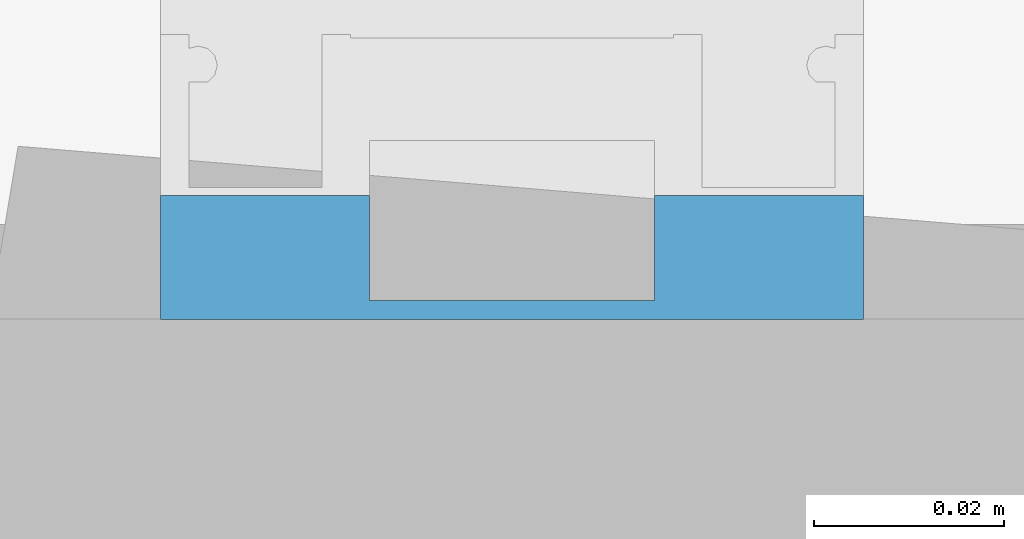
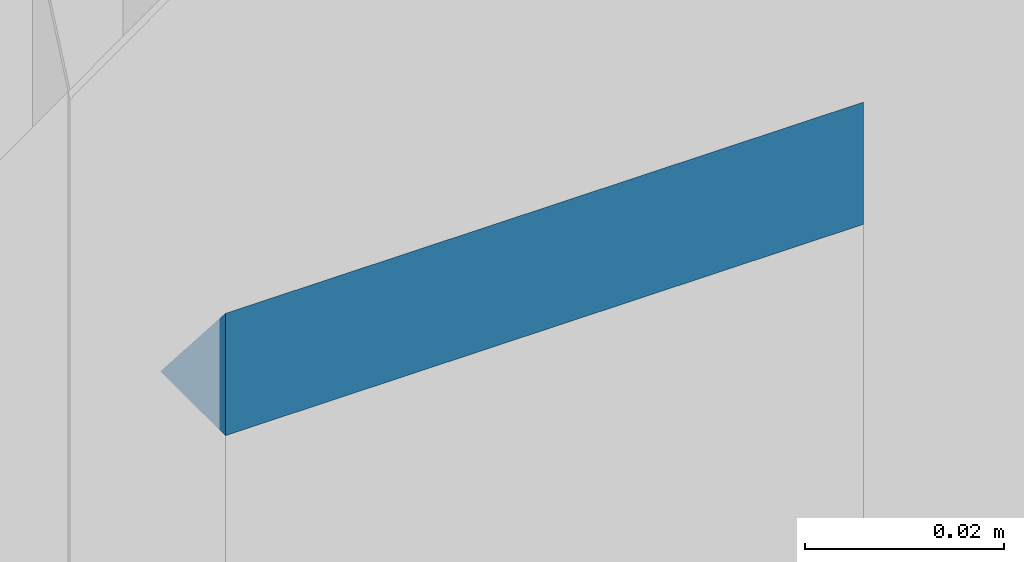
# One storey, part 93 of 246: 1 member, 1 element without a shape of its own.
"""IFC2X3 building model written with IfcOpenShell, lengths in millimetres."""

from ifc_helpers import new_model, entity, si_unit, converted_unit, derived_unit, money_unit, direction, frame, origin_with_axes, place, context, subcontext, project, spatial, faceted_brep, material, material_list, type_object, element, aggregate, save


model = new_model("IFC2X3")

# Units and contexts
model_context = context("Model", 3, precision=0.01, world=origin_with_axes(), true_north=direction((0.0, 1.0)))
body_context = subcontext(model_context, "Body", "Model", "MODEL_VIEW")
ifc_project = project(units=[si_unit("LENGTHUNIT", "METRE", prefix="MILLI"), si_unit("AREAUNIT", "SQUARE_METRE"), si_unit("VOLUMEUNIT", "CUBIC_METRE"), converted_unit("PLANEANGLEUNIT", "DEGREE", entity("IfcPlaneAngleMeasure", 0.0174532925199), si_unit("PLANEANGLEUNIT", "RADIAN"), dimensions=[0, 0, 0, 0, 0, 0, 0]), si_unit("SOLIDANGLEUNIT", "STERADIAN"), money_unit("EUR"), converted_unit("TIMEUNIT", "Year", entity("IfcTimeMeasure", 31556926.0), si_unit("TIMEUNIT", "SECOND"), dimensions=[0, 0, 1, 0, 0, 0, 0]), si_unit("MASSUNIT", "GRAM", prefix="KILO"), si_unit("THERMODYNAMICTEMPERATUREUNIT", "DEGREE_CELSIUS"), si_unit("LUMINOUSINTENSITYUNIT", "LUMEN"), si_unit("ENERGYUNIT", "JOULE", prefix="MEGA"), derived_unit("THERMALCONDUCTANCEUNIT", [(si_unit("POWERUNIT", "WATT"), 1), (si_unit("LENGTHUNIT", "METRE"), -1), (si_unit("THERMODYNAMICTEMPERATUREUNIT", "KELVIN"), -1)]), derived_unit("SPECIFICHEATCAPACITYUNIT", [(si_unit("ENERGYUNIT", "JOULE"), 1), (si_unit("MASSUNIT", "GRAM", prefix="KILO"), -1), (si_unit("THERMODYNAMICTEMPERATUREUNIT", "KELVIN"), -1)]), derived_unit("MASSDENSITYUNIT", [(si_unit("MASSUNIT", "GRAM", prefix="KILO"), 1), (si_unit("VOLUMEUNIT", "CUBIC_METRE"), -1)])], contexts=[model_context])

# Site, building, storey
site_placement = place(None, origin_with_axes())
site = spatial("IfcSite", under=ifc_project, at=site_placement, Name="L.Koidula tn 11b", CompositionType="ELEMENT")
building_placement = place(site_placement, origin_with_axes())
building = spatial("IfcBuilding", under=site, at=building_placement, Name="Rakvere Riigigümnaasium", CompositionType="ELEMENT")
storey_placement = place(building_placement, origin_with_axes())
storey = spatial("IfcBuildingStorey", under=building, at=storey_placement, Name="1.korrus 0,00", CompositionType="ELEMENT", Elevation=0.0)

# Curtain wall, member
curtain_wall_type = type_object("IfcCurtainWallType", Name="Curtain Wall Type", PredefinedType="NOTDEFINED")
curtain_wall_placement = place(storey_placement, frame((32835.0202258, 67589.2016838, 0.0), z_axis=(0.0, 0.0, 1.0), x_axis=(1.0, 0.0, 0.0)))
curtain_wall = element("IfcCurtainWall", 1, at=curtain_wall_placement, inside=storey, type_object=curtain_wall_type, Name="SKLF-02")
ifc_material_1 = material(Name="Klaasvill")
ifc_material_2 = material(Name="Teras RAL7012")
ifc_material_list = material_list([ifc_material_1, ifc_material_2])
member_type = type_object("IfcMemberType", Name="Boundary Frame 30 x 42", PredefinedType="MULLION")
member_placement = place(curtain_wall_placement, frame((0.0, -5998.75, 5000.0), z_axis=(0.0, 0.0, 1.0), x_axis=(0.0, 1.0, 0.0)))
member = element("IfcMember", 2, at=member_placement, type_object=member_type, material=ifc_material_list, Name="SKLF-11-raam", ObjectType="MULLION", context=body_context, shape_type="Brep", body=[
    faceted_brep([(7.49999990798, 15.000000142, 0.0), (13.0159876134, 15.000000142, 0.0), (7.49999990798, 15.000000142, 6.35679880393), (7.49999990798, 29.0161444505, 0.0), (13.0159876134, 29.0161444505, 0.0), (7.49999990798, 29.0161444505, 6.35679880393)], [[[0, 1, 2]], [[0, 3, 4, 1]], [[1, 4, 5, 2]], [[3, 0, 2, 5]], [[4, 3, 5]]]),
    faceted_brep([(7.49999990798, -24.9999997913, 0.0), (7.49999990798, -39.0161445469, 0.0), (7.49999990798, -39.0161445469, 6.35679880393), (7.49999990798, -24.9999997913, 6.35679880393), (13.0159876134, -24.9999997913, 0.0), (13.0159876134, -39.0161445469, 0.0)], [[[0, 1, 2, 3]], [[0, 4, 5, 1]], [[1, 5, 2]], [[5, 4, 3, 2]], [[4, 0, 3]]]),
    faceted_brep([(0.0, -22.0000000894, 0.0), (13.0159876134, -22.0000000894, 0.0), (0.0, -22.0000000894, 15.0000360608), (0.0, 12.0000000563, 0.0), (13.0159876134, 12.0000000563, 0.0), (13.0159876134, 10.0000001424, 0.0), (1.9999999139, 10.0000001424, 0.0), (1.9999999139, -20.0000001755, 0.0), (13.0159876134, -20.0000001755, 0.0), (1.9999999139, -20.0000001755, 12.6951728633), (1.9999999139, 10.0000001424, 12.6951728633), (0.0, 12.0000000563, 15.0000360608)], [[[0, 1, 2]], [[0, 3, 4, 5, 6, 7, 8, 1]], [[1, 8, 9, 10, 5, 4, 11, 2]], [[3, 0, 2, 11]], [[4, 3, 11]], [[6, 5, 10]], [[7, 6, 10, 9]], [[8, 7, 9]]]),
    faceted_brep([(0.0, 12.0, 0.0), (13.0159876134, 12.0000000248, 0.0), (0.0, 12.0, 15.0000360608), (0.0, 32.0, 0.0), (13.0159876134, 32.0, 0.0), (13.0159876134, 29.0161444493, 0.0), (7.49999999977, 29.0161444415, 0.0), (7.49999999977, 15.0, 0.0), (13.0159876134, 15.0000001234, 0.0), (7.49999999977, 15.0, 6.35679869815), (7.49999999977, 29.0161444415, 6.35679869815), (0.0, 32.0, 15.0000360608)], [[[0, 1, 2]], [[0, 3, 4, 5, 6, 7, 8, 1]], [[1, 8, 9, 10, 5, 4, 11, 2]], [[3, 0, 2, 11]], [[4, 3, 11]], [[6, 5, 10]], [[7, 6, 10, 9]], [[8, 7, 9]]]),
    faceted_brep([(0.0, -22.0, 0.0), (0.0, -42.0, 0.0), (0.0, -42.0, 15.0000360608), (0.0, -22.0, 15.0000360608), (13.0159876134, -22.0000000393, 0.0), (13.0159876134, -24.9999998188, 0.0), (7.49999999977, -25.0, 0.0), (7.49999999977, -39.0161444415, 0.0), (13.0159876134, -39.016144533, 0.0), (13.0159876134, -42.0, 0.0), (7.49999999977, -39.0161444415, 6.35679869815), (7.49999999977, -25.0, 6.35679869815)], [[[0, 1, 2, 3]], [[0, 4, 5, 6, 7, 8, 9, 1]], [[1, 9, 2]], [[9, 8, 10, 11, 5, 4, 3, 2]], [[4, 0, 3]], [[6, 5, 11]], [[7, 6, 11, 10]], [[8, 7, 10]]]),
])
aggregate(curtain_wall, [member])

save(model, "model.ifc")
